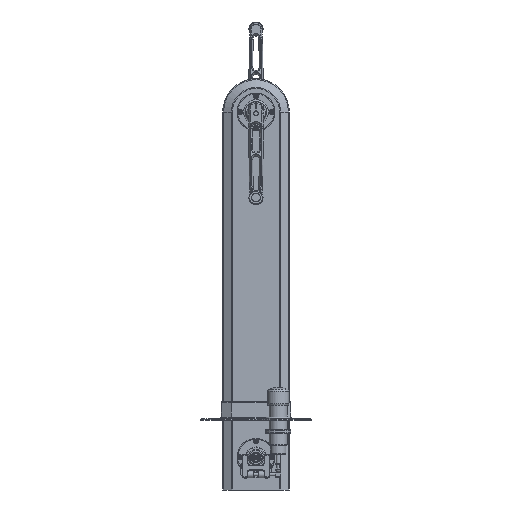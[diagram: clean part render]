
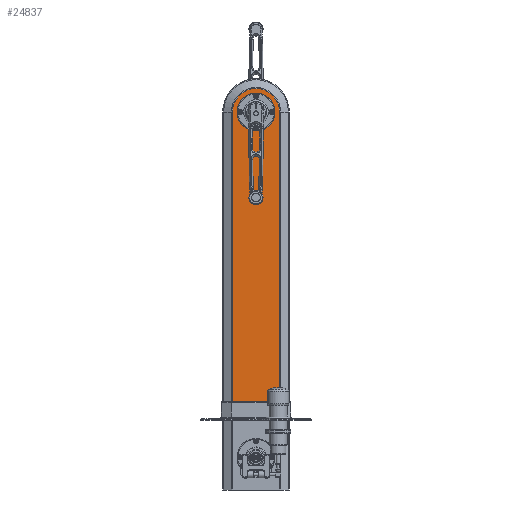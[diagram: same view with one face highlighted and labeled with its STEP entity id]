
A CAD part, front view. The second image highlights one B-rep face of the part: STEP entity #24837.
In plain terms, the highlighted planar face has unit normal (0, -1, 0).
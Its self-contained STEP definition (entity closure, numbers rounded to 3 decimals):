
#603=FACE_BOUND('',#7226,.T.);
#1271=LINE('',#40221,#2671);
#1273=LINE('',#40231,#2673);
#1274=LINE('',#40233,#2674);
#2671=VECTOR('',#31031,10.);
#2673=VECTOR('',#31043,10.);
#2674=VECTOR('',#31044,10.);
#5295=FACE_OUTER_BOUND('',#7225,.T.);
#7225=EDGE_LOOP('',(#17650,#17651,#17652,#17653));
#7226=EDGE_LOOP('',(#17654));
#9415=CIRCLE('',#26937,63.66);
#9416=CIRCLE('',#26938,51.);
#11168=VERTEX_POINT('',#40218);
#11169=VERTEX_POINT('',#40220);
#11172=VERTEX_POINT('',#40230);
#11173=VERTEX_POINT('',#40232);
#11174=VERTEX_POINT('',#40235);
#13723=EDGE_CURVE('',#11168,#11169,#1271,.T.);
#13728=EDGE_CURVE('',#11168,#11172,#1273,.T.);
#13729=EDGE_CURVE('',#11173,#11172,#1274,.T.);
#13730=EDGE_CURVE('',#11169,#11173,#9415,.T.);
#13731=EDGE_CURVE('',#11174,#11174,#9416,.T.);
#17650=ORIENTED_EDGE('',*,*,#13728,.T.);
#17651=ORIENTED_EDGE('',*,*,#13729,.F.);
#17652=ORIENTED_EDGE('',*,*,#13730,.F.);
#17653=ORIENTED_EDGE('',*,*,#13723,.F.);
#17654=ORIENTED_EDGE('',*,*,#13731,.T.);
#23851=PLANE('',#26936);
#24837=ADVANCED_FACE('',(#5295,#603),#23851,.T.);
#26936=AXIS2_PLACEMENT_3D('',#40229,#31041,#31042);
#26937=AXIS2_PLACEMENT_3D('',#40234,#31045,#31046);
#26938=AXIS2_PLACEMENT_3D('',#40236,#31047,#31048);
#31031=DIRECTION('',(0.,0.,1.));
#31041=DIRECTION('center_axis',(0.,-1.,0.));
#31042=DIRECTION('ref_axis',(0.,0.,-1.));
#31043=DIRECTION('',(1.,0.,0.));
#31044=DIRECTION('',(0.,0.,-1.));
#31045=DIRECTION('center_axis',(0.,1.,0.));
#31046=DIRECTION('ref_axis',(0.,0.,1.));
#31047=DIRECTION('center_axis',(0.,1.,0.));
#31048=DIRECTION('ref_axis',(0.,0.,
1.));
#40218=CARTESIAN_POINT('',(-63.66,-39.5,527.));
#40220=CARTESIAN_POINT('',(-63.66,-39.5,1310.));
#40221=CARTESIAN_POINT('',(-63.66,-39.5,0.));
#40229=CARTESIAN_POINT('Origin',(90.,-39.5,0.));
#40230=CARTESIAN_POINT('',(63.66,-39.5,527.));
#40231=CARTESIAN_POINT('',(45.,-39.5,527.));
#40232=CARTESIAN_POINT('',(63.66,-39.5,1310.));
#40233=CARTESIAN_POINT('',(63.66,-39.5,0.));
#40234=CARTESIAN_POINT('Origin',(0.,-39.5,1310.));
#40235=CARTESIAN_POINT('',(0.,-39.5,1361.));
#40236=CARTESIAN_POINT('Origin',(0.,-39.5,
1310.));
